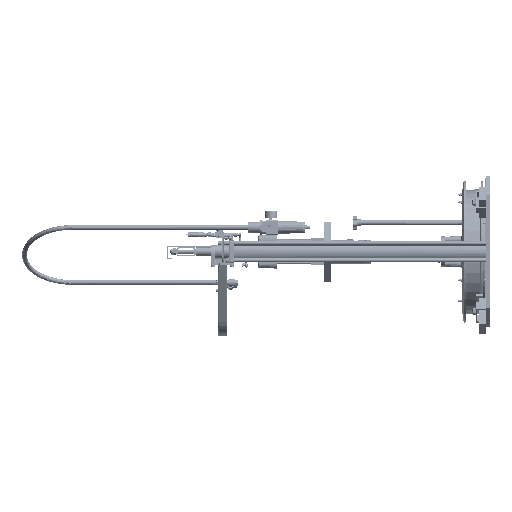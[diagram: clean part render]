
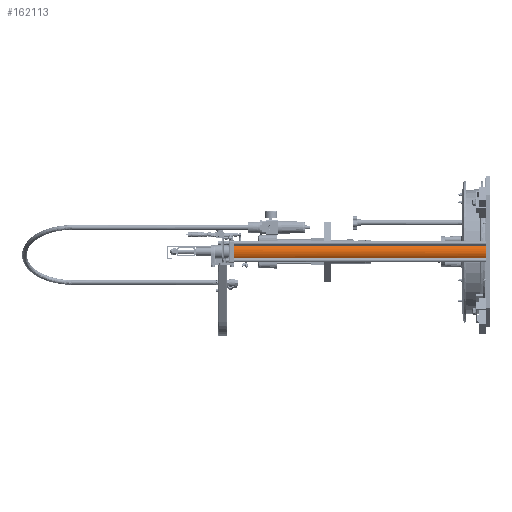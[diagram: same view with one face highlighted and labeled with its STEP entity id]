
A CAD part, left-side view. The second image highlights one B-rep face of the part: STEP entity #162113.
In plain terms, the highlighted cylindrical face has radius 43 mm (diameter 86 mm), a partial arc.
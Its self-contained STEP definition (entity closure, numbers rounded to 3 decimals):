
#1129 = CARTESIAN_POINT ( 'NONE',  ( -405.243, 1065., -24.636 ) ) ;
#2404 =( BOUNDED_CURVE ( )  B_SPLINE_CURVE ( 3, ( #218453, #157567, #108382, #1129 ),
 .UNSPECIFIED., .F., .T. ) 
 B_SPLINE_CURVE_WITH_KNOTS ( ( 4, 4 ),
 ( 3.317, 4.537 ),
 .UNSPECIFIED. ) 
 CURVE ( )  GEOMETRIC_REPRESENTATION_ITEM ( )  RATIONAL_B_SPLINE_CURVE ( ( 1., 0.88, 0.88, 1. ) ) 
 REPRESENTATION_ITEM ( '' )  );
#6213 = DIRECTION ( 'NONE',  ( 0., 0., 1. ) ) ;
#7095 = EDGE_CURVE ( 'NONE', #72914, #283919, #2404, .T. ) ;
#40126 = VERTEX_POINT ( 'NONE', #101346 ) ;
#49719 = DIRECTION ( 'NONE',  ( 0., -1., 0. ) ) ;
#56850 = DIRECTION ( 'NONE',  ( 0., 1., 0. ) ) ;
#61799 = CARTESIAN_POINT ( 'NONE',  ( -405.243, 1065., 24.636 ) ) ;
#72914 = VERTEX_POINT ( 'NONE', #61799 ) ;
#80509 = AXIS2_PLACEMENT_3D ( 'NONE', #167983, #49719, #6213 ) ;
#100283 = LINE ( 'NONE', #255321, #202384 ) ;
#101346 = CARTESIAN_POINT ( 'NONE',  ( -405.243, 15., 24.636 ) ) ;
#103636 = DIRECTION ( 'NONE',  ( 0., 1., 0. ) ) ;
#108382 = CARTESIAN_POINT ( 'NONE',  ( -415.939, 1065., -9.335 ) ) ;
#110696 = AXIS2_PLACEMENT_3D ( 'NONE', #196742, #224214, #176433 ) ;
#119634 = VERTEX_POINT ( 'NONE', #224263 ) ;
#122512 = CARTESIAN_POINT ( 'NONE',  ( -405.243, 15., 24.636 ) ) ;
#157567 = CARTESIAN_POINT ( 'NONE',  ( -415.939, 1065., 9.335 ) ) ;
#162113 = ADVANCED_FACE ( 'NONE', ( #243106 ), #199589, .T. ) ;
#167983 = CARTESIAN_POINT ( 'NONE',  ( -370., 15., 0. ) ) ;
#176433 = DIRECTION ( 'NONE',  ( 0., 0., 1. ) ) ;
#177676 = CIRCLE ( 'NONE', #80509, 43. ) ;
#181667 = EDGE_CURVE ( 'NONE', #40126, #72914, #193423, .T. ) ;
#193423 = LINE ( 'NONE', #122512, #201607 ) ;
#196742 = CARTESIAN_POINT ( 'NONE',  ( -370., 15., 0. ) ) ;
#199589 = CYLINDRICAL_SURFACE ( 'NONE', #110696, 43. ) ;
#201564 = EDGE_LOOP ( 'NONE', ( #267456, #205228, #230800, #226428 ) ) ;
#201607 = VECTOR ( 'NONE', #103636, 1000. ) ;
#202384 = VECTOR ( 'NONE', #56850, 1000. ) ;
#205228 = ORIENTED_EDGE ( 'NONE', *, *, #7095, .T. ) ;
#212874 = CARTESIAN_POINT ( 'NONE',  ( -405.243, 1065., -24.636 ) ) ;
#218453 = CARTESIAN_POINT ( 'NONE',  ( -405.243, 1065., 24.636 ) ) ;
#224214 = DIRECTION ( 'NONE',  ( 0., 1., 0. ) ) ;
#224263 = CARTESIAN_POINT ( 'NONE',  ( -405.243, 15., -24.636 ) ) ;
#226428 = ORIENTED_EDGE ( 'NONE', *, *, #283953, .F. ) ;
#230800 = ORIENTED_EDGE ( 'NONE', *, *, #253282, .F. ) ;
#243106 = FACE_OUTER_BOUND ( 'NONE', #201564, .T. ) ;
#253282 = EDGE_CURVE ( 'NONE', #119634, #283919, #100283, .T. ) ;
#255321 = CARTESIAN_POINT ( 'NONE',  ( -405.243, 15., -24.636 ) ) ;
#267456 = ORIENTED_EDGE ( 'NONE', *, *, #181667, .T. ) ;
#283919 = VERTEX_POINT ( 'NONE', #212874 ) ;
#283953 = EDGE_CURVE ( 'NONE', #40126, #119634, #177676, .T. ) ;
